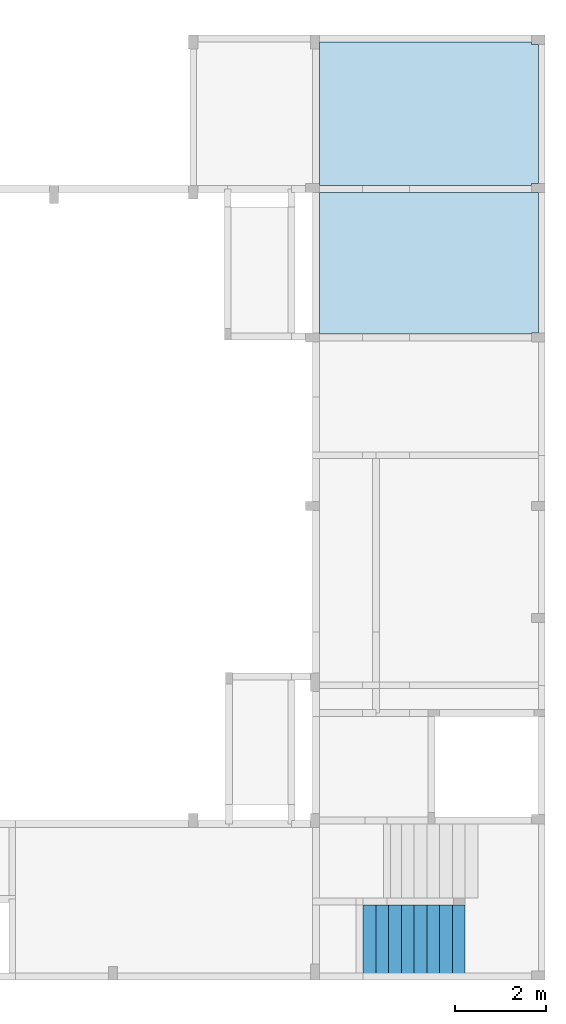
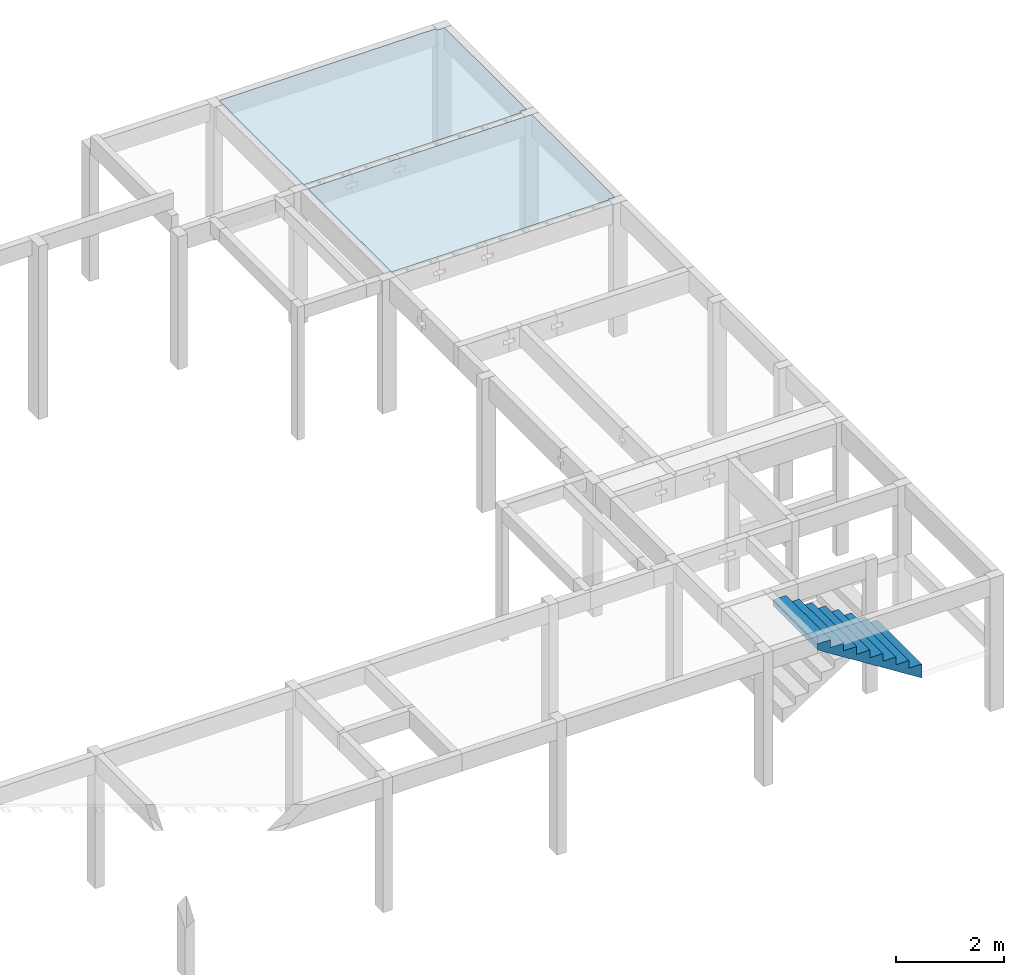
# One storey, part 20 of 21: 2 slabs, 1 stair flight.
"""IFC4 building model written with IfcOpenShell, lengths in centimetres."""

from ifc_helpers import new_model, si_unit, derived_unit, frame, origin_with_axes, place, context, project, spatial, polyline, outline, extrude, faceted_brep, material, element, save


model = new_model("IFC4")

# Units and contexts
model_context = context("Model", 3, precision=1e-05, world=origin_with_axes(), identifier="Body")
ifc_project = project(units=[si_unit("LENGTHUNIT", "METRE", prefix="CENTI"), si_unit("VOLUMEUNIT", "CUBIC_METRE"), si_unit("AREAUNIT", "SQUARE_METRE"), si_unit("POWERUNIT", "WATT"), si_unit("LUMINOUSFLUXUNIT", "LUMEN"), si_unit("ELECTRICCURRENTUNIT", "AMPERE"), si_unit("PRESSUREUNIT", "PASCAL", prefix="KILO"), si_unit("MASSUNIT", "GRAM", prefix="KILO"), si_unit("PLANEANGLEUNIT", "RADIAN"), derived_unit("VOLUMETRICFLOWRATEUNIT", [(si_unit("LENGTHUNIT", "METRE"), 3), (si_unit("TIMEUNIT", "SECOND"), -1)])], contexts=[model_context])

# Site, building, storey
site_placement = place(None, origin_with_axes())
site = spatial("IfcSite", under=ifc_project, at=site_placement)
building_placement = place(site_placement, frame((0.0, 0.0, -295.0)))
building = spatial("IfcBuilding", under=site, at=building_placement)
placement_1 = place(building_placement, origin_with_axes())
placement_2 = place(placement_1, frame((0.0, 0.0, 101.0), z_axis=(0.0, 0.0, 1.0), x_axis=(1.0, 0.0, 0.0)))
placement_3 = place(placement_2, frame((0.0, 0.0, 204.0), z_axis=(0.0, 0.0, 1.0), x_axis=(1.0, 0.0, 0.0)))
placement_4 = place(placement_3, frame((0.0, 0.0, 292.0), z_axis=(0.0, 0.0, 1.0), x_axis=(1.0, 0.0, 0.0)))
storey_placement = place(placement_4, frame((0.0, 0.0, 302.0), z_axis=(0.0, 0.0, 1.0), x_axis=(1.0, 0.0, 0.0)))
storey = spatial("IfcBuildingStorey", under=building, at=storey_placement, Name="PAVTO 02", CompositionType="ELEMENT", Elevation=604.0)

# Slabs
ifc_material = material(Name="Concreto")
slab_1_placement = place(storey_placement, frame((3761.23, -5277.085, 0.0), z_axis=(0.0, 0.0, 1.0), x_axis=(1.0, 0.0, 0.0)))
element("IfcSlab", 1, at=slab_1_placement, inside=storey, material=ifc_material, Name="L208", PredefinedType="FLOOR", context=model_context, shape_type="SolidModel", body=[
    extrude(outline(polyline([(-240.519, -157.535), (225.51, -157.534), (225.509, -152.604), (240.519, -152.604), (240.519, 152.534), (225.53, 152.534), (225.529, 157.534), (-240.499, 157.535), (-240.519, -157.535), (-240.519, -157.535)])), frame((0.0, 0.0, -4.0), z_axis=(0.0, 0.0, 1.0), x_axis=(1.0, 0.0, 0.0)), (0.0, 0.0, 1.0), 4.0),
    faceted_brep([(-5.0, -157.5345, -12.0), (-5.0, 157.5345, -12.0), (5.0, 157.5345, -12.0), (5.0, -157.5345, -12.0), (5.0, -157.5345, -4.0), (5.0, 157.5345, -4.0), (-5.0, 157.5345, -4.0), (-5.0, -157.5345, -4.0)], [[[0, 1, 2, 3]], [[4, 5, 6, 7]], [[4, 3, 5]], [[3, 2, 5]], [[5, 2, 6]], [[2, 1, 6]], [[6, 1, 7]], [[1, 0, 7]], [[7, 0, 4]], [[0, 3, 4]]]),
    faceted_brep([(-6.5, -157.5345, -12.0), (-6.5, 157.5345, -12.0), (-5.0, 157.5345, -12.0), (-5.0, -157.5345, -12.0), (-5.0, -157.5345, -9.0), (-5.0, 157.5345, -9.0), (-6.5, 157.5345, -9.0), (-6.5, -157.5345, -9.0)], [[[0, 1, 2, 3]], [[4, 5, 6, 7]], [[4, 3, 5]], [[3, 2, 5]], [[5, 2, 6]], [[2, 1, 6]], [[6, 1, 7]], [[1, 0, 7]], [[7, 0, 4]], [[0, 3, 4]]]),
    faceted_brep([(5.0, -157.5345, -12.0), (5.0, 157.5345, -12.0), (6.5, 157.5345, -12.0), (6.5, -157.5345, -12.0), (6.5, -157.5345, -9.0), (6.5, 157.5345, -9.0), (5.0, 157.5345, -9.0), (5.0, -157.5345, -9.0)], [[[0, 1, 2, 3]], [[4, 5, 6, 7]], [[4, 3, 5]], [[3, 2, 5]], [[5, 2, 6]], [[2, 1, 6]], [[6, 1, 7]], [[1, 0, 7]], [[7, 0, 4]], [[0, 3, 4]]]),
    faceted_brep([(-55.0, -157.5345, -12.0), (-55.0, 157.5345, -12.0), (-45.0, 157.5345, -12.0), (-45.0, -157.5345, -12.0), (-45.0, -157.5345, -4.0), (-45.0, 157.5345, -4.0), (-55.0, 157.5345, -4.0), (-55.0, -157.5345, -4.0)], [[[0, 1, 2, 3]], [[4, 5, 6, 7]], [[4, 3, 5]], [[3, 2, 5]], [[5, 2, 6]], [[2, 1, 6]], [[6, 1, 7]], [[1, 0, 7]], [[7, 0, 4]], [[0, 3, 4]]]),
    faceted_brep([(-56.5, -157.5345, -12.0), (-56.5, 157.5345, -12.0), (-55.0, 157.5345, -12.0), (-55.0, -157.5345, -12.0), (-55.0, -157.5345, -9.0), (-55.0, 157.5345, -9.0), (-56.5, 157.5345, -9.0), (-56.5, -157.5345, -9.0)], [[[0, 1, 2, 3]], [[4, 5, 6, 7]], [[4, 3, 5]], [[3, 2, 5]], [[5, 2, 6]], [[2, 1, 6]], [[6, 1, 7]], [[1, 0, 7]], [[7, 0, 4]], [[0, 3, 4]]]),
    faceted_brep([(-45.0, -157.5345, -12.0), (-45.0, 157.5345, -12.0), (-43.5, 157.5345, -12.0), (-43.5, -157.5345, -12.0), (-43.5, -157.5345, -9.0), (-43.5, 157.5345, -9.0), (-45.0, 157.5345, -9.0), (-45.0, -157.5345, -9.0)], [[[0, 1, 2, 3]], [[4, 5, 6, 7]], [[4, 3, 5]], [[3, 2, 5]], [[5, 2, 6]], [[2, 1, 6]], [[6, 1, 7]], [[1, 0, 7]], [[7, 0, 4]], [[0, 3, 4]]]),
    faceted_brep([(-105.0, -157.5345, -12.0), (-105.0, 157.5345, -12.0), (-95.0, 157.5345, -12.0), (-95.0, -157.5345, -12.0), (-95.0, -157.5345, -4.0), (-95.0, 157.5345, -4.0), (-105.0, 157.5345, -4.0), (-105.0, -157.5345, -4.0)], [[[0, 1, 2, 3]], [[4, 5, 6, 7]], [[4, 3, 5]], [[3, 2, 5]], [[5, 2, 6]], [[2, 1, 6]], [[6, 1, 7]], [[1, 0, 7]], [[7, 0, 4]], [[0, 3, 4]]]),
    faceted_brep([(-106.5, -157.5345, -12.0), (-106.5, 157.5345, -12.0), (-105.0, 157.5345, -12.0), (-105.0, -157.5345, -12.0), (-105.0, -157.5345, -9.0), (-105.0, 157.5345, -9.0), (-106.5, 157.5345, -9.0), (-106.5, -157.5345, -9.0)], [[[0, 1, 2, 3]], [[4, 5, 6, 7]], [[4, 3, 5]], [[3, 2, 5]], [[5, 2, 6]], [[2, 1, 6]], [[6, 1, 7]], [[1, 0, 7]], [[7, 0, 4]], [[0, 3, 4]]]),
    faceted_brep([(-95.0, -157.5345, -12.0), (-95.0, 157.5345, -12.0), (-93.5, 157.5345, -12.0), (-93.5, -157.5345, -12.0), (-93.5, -157.5345, -9.0), (-93.5, 157.5345, -9.0), (-95.0, 157.5345, -9.0), (-95.0, -157.5345, -9.0)], [[[0, 1, 2, 3]], [[4, 5, 6, 7]], [[4, 3, 5]], [[3, 2, 5]], [[5, 2, 6]], [[2, 1, 6]], [[6, 1, 7]], [[1, 0, 7]], [[7, 0, 4]], [[0, 3, 4]]]),
    faceted_brep([(-155.0, -157.5345, -12.0), (-155.0, 157.5345, -12.0), (-145.0, 157.5345, -12.0), (-145.0, -157.5345, -12.0), (-145.0, -157.5345, -4.0), (-145.0, 157.5345, -4.0), (-155.0, 157.5345, -4.0), (-155.0, -157.5345, -4.0)], [[[0, 1, 2, 3]], [[4, 5, 6, 7]], [[4, 3, 5]], [[3, 2, 5]], [[5, 2, 6]], [[2, 1, 6]], [[6, 1, 7]], [[1, 0, 7]], [[7, 0, 4]], [[0, 3, 4]]]),
    faceted_brep([(-156.5, -157.5345, -12.0), (-156.5, 157.5345, -12.0), (-155.0, 157.5345, -12.0), (-155.0, -157.5345, -12.0), (-155.0, -157.5345, -9.0), (-155.0, 157.5345, -9.0), (-156.5, 157.5345, -9.0), (-156.5, -157.5345, -9.0)], [[[0, 1, 2, 3]], [[4, 5, 6, 7]], [[4, 3, 5]], [[3, 2, 5]], [[5, 2, 6]], [[2, 1, 6]], [[6, 1, 7]], [[1, 0, 7]], [[7, 0, 4]], [[0, 3, 4]]]),
    faceted_brep([(-145.0, -157.5345, -12.0), (-145.0, 157.5345, -12.0), (-143.5, 157.5345, -12.0), (-143.5, -157.5345, -12.0), (-143.5, -157.5345, -9.0), (-143.5, 157.5345, -9.0), (-145.0, 157.5345, -9.0), (-145.0, -157.5345, -9.0)], [[[0, 1, 2, 3]], [[4, 5, 6, 7]], [[4, 3, 5]], [[3, 2, 5]], [[5, 2, 6]], [[2, 1, 6]], [[6, 1, 7]], [[1, 0, 7]], [[7, 0, 4]], [[0, 3, 4]]]),
    faceted_brep([(-205.0, -157.5345, -12.0), (-205.0, 157.5345, -12.0), (-195.0, 157.5345, -12.0), (-195.0, -157.5345, -12.0), (-195.0, -157.5345, -4.0), (-195.0, 157.5345, -4.0), (-205.0, 157.5345, -4.0), (-205.0, -157.5345, -4.0)], [[[0, 1, 2, 3]], [[4, 5, 6, 7]], [[4, 3, 5]], [[3, 2, 5]], [[5, 2, 6]], [[2, 1, 6]], [[6, 1, 7]], [[1, 0, 7]], [[7, 0, 4]], [[0, 3, 4]]]),
    faceted_brep([(-206.5, -157.5345, -12.0), (-206.5, 157.5345, -12.0), (-205.0, 157.5345, -12.0), (-205.0, -157.5345, -12.0), (-205.0, -157.5345, -9.0), (-205.0, 157.5345, -9.0), (-206.5, 157.5345, -9.0), (-206.5, -157.5345, -9.0)], [[[0, 1, 2, 3]], [[4, 5, 6, 7]], [[4, 3, 5]], [[3, 2, 5]], [[5, 2, 6]], [[2, 1, 6]], [[6, 1, 7]], [[1, 0, 7]], [[7, 0, 4]], [[0, 3, 4]]]),
    faceted_brep([(-195.0, -157.5345, -12.0), (-195.0, 157.5345, -12.0), (-193.5, 157.5345, -12.0), (-193.5, -157.5345, -12.0), (-193.5, -157.5345, -9.0), (-193.5, 157.5345, -9.0), (-195.0, 157.5345, -9.0), (-195.0, -157.5345, -9.0)], [[[0, 1, 2, 3]], [[4, 5, 6, 7]], [[4, 3, 5]], [[3, 2, 5]], [[5, 2, 6]], [[2, 1, 6]], [[6, 1, 7]], [[1, 0, 7]], [[7, 0, 4]], [[0, 3, 4]]]),
    faceted_brep([(45.0, -157.5345, -12.0), (45.0, 157.5345, -12.0), (55.0, 157.5345, -12.0), (55.0, -157.5345, -12.0), (55.0, -157.5345, -4.0), (55.0, 157.5345, -4.0), (45.0, 157.5345, -4.0), (45.0, -157.5345, -4.0)], [[[0, 1, 2, 3]], [[4, 5, 6, 7]], [[4, 3, 5]], [[3, 2, 5]], [[5, 2, 6]], [[2, 1, 6]], [[6, 1, 7]], [[1, 0, 7]], [[7, 0, 4]], [[0, 3, 4]]]),
    faceted_brep([(43.5, -157.5345, -12.0), (43.5, 157.5345, -12.0), (45.0, 157.5345, -12.0), (45.0, -157.5345, -12.0), (45.0, -157.5345, -9.0), (45.0, 157.5345, -9.0), (43.5, 157.5345, -9.0), (43.5, -157.5345, -9.0)], [[[0, 1, 2, 3]], [[4, 5, 6, 7]], [[4, 3, 5]], [[3, 2, 5]], [[5, 2, 6]], [[2, 1, 6]], [[6, 1, 7]], [[1, 0, 7]], [[7, 0, 4]], [[0, 3, 4]]]),
    faceted_brep([(55.0, -157.5345, -12.0), (55.0, 157.5345, -12.0), (56.5, 157.5345, -12.0), (56.5, -157.5345, -12.0), (56.5, -157.5345, -9.0), (56.5, 157.5345, -9.0), (55.0, 157.5345, -9.0), (55.0, -157.5345, -9.0)], [[[0, 1, 2, 3]], [[4, 5, 6, 7]], [[4, 3, 5]], [[3, 2, 5]], [[5, 2, 6]], [[2, 1, 6]], [[6, 1, 7]], [[1, 0, 7]], [[7, 0, 4]], [[0, 3, 4]]]),
    faceted_brep([(95.0, -157.5345, -12.0), (95.0, 157.5345, -12.0), (105.0, 157.5345, -12.0), (105.0, -157.5345, -12.0), (105.0, -157.5345, -4.0), (105.0, 157.5345, -4.0), (95.0, 157.5345, -4.0), (95.0, -157.5345, -4.0)], [[[0, 1, 2, 3]], [[4, 5, 6, 7]], [[4, 3, 5]], [[3, 2, 5]], [[5, 2, 6]], [[2, 1, 6]], [[6, 1, 7]], [[1, 0, 7]], [[7, 0, 4]], [[0, 3, 4]]]),
    faceted_brep([(93.5, -157.5345, -12.0), (93.5, 157.5345, -12.0), (95.0, 157.5345, -12.0), (95.0, -157.5345, -12.0), (95.0, -157.5345, -9.0), (95.0, 157.5345, -9.0), (93.5, 157.5345, -9.0), (93.5, -157.5345, -9.0)], [[[0, 1, 2, 3]], [[4, 5, 6, 7]], [[4, 3, 5]], [[3, 2, 5]], [[5, 2, 6]], [[2, 1, 6]], [[6, 1, 7]], [[1, 0, 7]], [[7, 0, 4]], [[0, 3, 4]]]),
    faceted_brep([(105.0, -157.5345, -12.0), (105.0, 157.5345, -12.0), (106.5, 157.5345, -12.0), (106.5, -157.5345, -12.0), (106.5, -157.5345, -9.0), (106.5, 157.5345, -9.0), (105.0, 157.5345, -9.0), (105.0, -157.5345, -9.0)], [[[0, 1, 2, 3]], [[4, 5, 6, 7]], [[4, 3, 5]], [[3, 2, 5]], [[5, 2, 6]], [[2, 1, 6]], [[6, 1, 7]], [[1, 0, 7]], [[7, 0, 4]], [[0, 3, 4]]]),
    faceted_brep([(145.0, -157.5345, -12.0), (145.0, 157.5345, -12.0), (155.0, 157.5345, -12.0), (155.0, -157.5345, -12.0), (155.0, -157.5345, -4.0), (155.0, 157.5345, -4.0), (145.0, 157.5345, -4.0), (145.0, -157.5345, -4.0)], [[[0, 1, 2, 3]], [[4, 5, 6, 7]], [[4, 3, 5]], [[3, 2, 5]], [[5, 2, 6]], [[2, 1, 6]], [[6, 1, 7]], [[1, 0, 7]], [[7, 0, 4]], [[0, 3, 4]]]),
    faceted_brep([(143.5, -157.5345, -12.0), (143.5, 157.5345, -12.0), (145.0, 157.5345, -12.0), (145.0, -157.5345, -12.0), (145.0, -157.5345, -9.0), (145.0, 157.5345, -9.0), (143.5, 157.5345, -9.0), (143.5, -157.5345, -9.0)], [[[0, 1, 2, 3]], [[4, 5, 6, 7]], [[4, 3, 5]], [[3, 2, 5]], [[5, 2, 6]], [[2, 1, 6]], [[6, 1, 7]], [[1, 0, 7]], [[7, 0, 4]], [[0, 3, 4]]]),
    faceted_brep([(155.0, -157.5345, -12.0), (155.0, 157.5345, -12.0), (156.5, 157.5345, -12.0), (156.5, -157.5345, -12.0), (156.5, -157.5345, -9.0), (156.5, 157.5345, -9.0), (155.0, 157.5345, -9.0), (155.0, -157.5345, -9.0)], [[[0, 1, 2, 3]], [[4, 5, 6, 7]], [[4, 3, 5]], [[3, 2, 5]], [[5, 2, 6]], [[2, 1, 6]], [[6, 1, 7]], [[1, 0, 7]], [[7, 0, 4]], [[0, 3, 4]]]),
    faceted_brep([(195.0, -157.5345, -12.0), (195.0, 157.5345, -12.0), (205.0, 157.5345, -12.0), (205.0, -157.5345, -12.0), (205.0, -157.5345, -4.0), (205.0, 157.5345, -4.0), (195.0, 157.5345, -4.0), (195.0, -157.5345, -4.0)], [[[0, 1, 2, 3]], [[4, 5, 6, 7]], [[4, 3, 5]], [[3, 2, 5]], [[5, 2, 6]], [[2, 1, 6]], [[6, 1, 7]], [[1, 0, 7]], [[7, 0, 4]], [[0, 3, 4]]]),
    faceted_brep([(193.5, -157.5345, -12.0), (193.5, 157.5345, -12.0), (195.0, 157.5345, -12.0), (195.0, -157.5345, -12.0), (195.0, -157.5345, -9.0), (195.0, 157.5345, -9.0), (193.5, 157.5345, -9.0), (193.5, -157.5345, -9.0)], [[[0, 1, 2, 3]], [[4, 5, 6, 7]], [[4, 3, 5]], [[3, 2, 5]], [[5, 2, 6]], [[2, 1, 6]], [[6, 1, 7]], [[1, 0, 7]], [[7, 0, 4]], [[0, 3, 4]]]),
    faceted_brep([(205.0, -157.5345, -12.0), (205.0, 157.5345, -12.0), (206.5, 157.5345, -12.0), (206.5, -157.5345, -12.0), (206.5, -157.5345, -9.0), (206.5, 157.5345, -9.0), (205.0, 157.5345, -9.0), (205.0, -157.5345, -9.0)], [[[0, 1, 2, 3]], [[4, 5, 6, 7]], [[4, 3, 5]], [[3, 2, 5]], [[5, 2, 6]], [[2, 1, 6]], [[6, 1, 7]], [[1, 0, 7]], [[7, 0, 4]], [[0, 3, 4]]]),
])
slab_2_placement = place(storey_placement, frame((3761.2305, -5605.3345, 0.0), z_axis=(0.0, 0.0, 1.0), x_axis=(1.0, 0.0, 0.0)))
element("IfcSlab", 2, at=slab_2_placement, inside=storey, material=ifc_material, Name="L216", PredefinedType="FLOOR", context=model_context, shape_type="SolidModel", body=[
    extrude(outline(polyline([(225.53, -155.714), (225.53, -153.215), (240.52, -153.214), (240.52, 155.645), (225.509, 155.645), (-42.98, 155.715), (-145.829, 155.715), (-240.519, 155.645), (-240.5, -155.714), (225.53, -155.714), (225.53, -155.714)])), frame((-0.0005, -0.0005, -4.0), z_axis=(0.0, 0.0, 1.0), x_axis=(1.0, 0.0, 0.0)), (0.0, 0.0, 1.0), 4.0),
    faceted_brep([(-5.0005, -155.7145, -12.0), (-5.0005, 155.68898413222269, -12.0), (4.9995, 155.6871722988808, -12.0), (4.9995, -155.7145, -12.0), (4.9995, -155.7145, -4.0), (4.9995, 155.6871722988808, -4.0), (-5.0005, 155.68898413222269, -4.0), (-5.0005, -155.7145, -4.0)], [[[0, 1, 2, 3]], [[4, 5, 6, 7]], [[4, 3, 5]], [[3, 2, 5]], [[5, 2, 6]], [[2, 1, 6]], [[6, 1, 7]], [[1, 0, 7]], [[7, 0, 4]], [[0, 3, 4]]]),
    faceted_brep([(-6.5005, -155.7145, -12.0), (-6.5005, 155.68925590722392, -12.0), (-5.0005, 155.68898413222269, -12.0), (-5.0005, -155.7145, -12.0), (-5.0005, -155.7145, -9.0), (-5.0005, 155.68898413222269, -9.0), (-6.5005, 155.68925590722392, -9.0), (-6.5005, -155.7145, -9.0)], [[[0, 1, 2, 3]], [[4, 5, 6, 7]], [[4, 3, 5]], [[3, 2, 5]], [[5, 2, 6]], [[2, 1, 6]], [[6, 1, 7]], [[1, 0, 7]], [[7, 0, 4]], [[0, 3, 4]]]),
    faceted_brep([(4.9995, -155.7145, -12.0), (4.9995, 155.6871722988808, -12.0), (6.4995, 155.68690052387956, -12.0), (6.4995, -155.7145, -12.0), (6.4995, -155.7145, -9.0), (6.4995, 155.68690052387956, -9.0), (4.9995, 155.6871722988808, -9.0), (4.9995, -155.7145, -9.0)], [[[0, 1, 2, 3]], [[4, 5, 6, 7]], [[4, 3, 5]], [[3, 2, 5]], [[5, 2, 6]], [[2, 1, 6]], [[6, 1, 7]], [[1, 0, 7]], [[7, 0, 4]], [[0, 3, 4]]]),
    faceted_brep([(-55.0005, -155.7145, -12.0), (-55.0005, 155.69804329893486, -12.0), (-45.0005, 155.69623146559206, -12.0), (-45.0005, -155.7145, -12.0), (-45.0005, -155.7145, -4.0), (-45.0005, 155.69623146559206, -4.0), (-55.0005, 155.69804329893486, -4.0), (-55.0005, -155.7145, -4.0)], [[[0, 1, 2, 3]], [[4, 5, 6, 7]], [[4, 3, 5]], [[3, 2, 5]], [[5, 2, 6]], [[2, 1, 6]], [[6, 1, 7]], [[1, 0, 7]], [[7, 0, 4]], [[0, 3, 4]]]),
    faceted_brep([(-56.5005, -155.7145, -12.0), (-56.5005, 155.6983150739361, -12.0), (-55.0005, 155.69804329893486, -12.0), (-55.0005, -155.7145, -12.0), (-55.0005, -155.7145, -9.0), (-55.0005, 155.69804329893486, -9.0), (-56.5005, 155.6983150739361, -9.0), (-56.5005, -155.7145, -9.0)], [[[0, 1, 2, 3]], [[4, 5, 6, 7]], [[4, 3, 5]], [[3, 2, 5]], [[5, 2, 6]], [[2, 1, 6]], [[6, 1, 7]], [[1, 0, 7]], [[7, 0, 4]], [[0, 3, 4]]]),
    faceted_brep([(-45.0005, -155.7145, -12.0), (-45.0005, 155.69623146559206, -12.0), (-43.5005, 155.69595969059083, -12.0), (-43.5005, -155.7145, -12.0), (-43.5005, -155.7145, -9.0), (-43.5005, 155.69595969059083, -9.0), (-45.0005, 155.69623146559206, -9.0), (-45.0005, -155.7145, -9.0)], [[[0, 1, 2, 3]], [[4, 5, 6, 7]], [[4, 3, 5]], [[3, 2, 5]], [[5, 2, 6]], [[2, 1, 6]], [[6, 1, 7]], [[1, 0, 7]], [[7, 0, 4]], [[0, 3, 4]]]),
    faceted_brep([(-105.0005, -155.7145, -12.0), (-105.0005, 155.70710246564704, -12.0), (-95.0005, 155.70529063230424, -12.0), (-95.0005, -155.7145, -12.0), (-95.0005, -155.7145, -4.0), (-95.0005, 155.70529063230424, -4.0), (-105.0005, 155.70710246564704, -4.0), (-105.0005, -155.7145, -4.0)], [[[0, 1, 2, 3]], [[4, 5, 6, 7]], [[4, 3, 5]], [[3, 2, 5]], [[5, 2, 6]], [[2, 1, 6]], [[6, 1, 7]], [[1, 0, 7]], [[7, 0, 4]], [[0, 3, 4]]]),
    faceted_brep([(-106.5005, -155.7145, -12.0), (-106.5005, 155.70737424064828, -12.0), (-105.0005, 155.70710246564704, -12.0), (-105.0005, -155.7145, -12.0), (-105.0005, -155.7145, -9.0), (-105.0005, 155.70710246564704, -9.0), (-106.5005, 155.70737424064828, -9.0), (-106.5005, -155.7145, -9.0)], [[[0, 1, 2, 3]], [[4, 5, 6, 7]], [[4, 3, 5]], [[3, 2, 5]], [[5, 2, 6]], [[2, 1, 6]], [[6, 1, 7]], [[1, 0, 7]], [[7, 0, 4]], [[0, 3, 4]]]),
    faceted_brep([(-95.0005, -155.7145, -12.0), (-95.0005, 155.70529063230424, -12.0), (-93.5005, 155.705018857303, -12.0), (-93.5005, -155.7145, -12.0), (-93.5005, -155.7145, -9.0), (-93.5005, 155.705018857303, -9.0), (-95.0005, 155.70529063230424, -9.0), (-95.0005, -155.7145, -9.0)], [[[0, 1, 2, 3]], [[4, 5, 6, 7]], [[4, 3, 5]], [[3, 2, 5]], [[5, 2, 6]], [[2, 1, 6]], [[6, 1, 7]], [[1, 0, 7]], [[7, 0, 4]], [[0, 3, 4]]]),
    faceted_brep([(-155.0005, -155.7145, -12.0), (-155.0005, 155.70772029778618, -12.0), (-145.0005, 155.71434979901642, -12.0), (-145.0005, -155.7145, -12.0), (-145.0005, -155.7145, -4.0), (-145.0005, 155.71434979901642, -4.0), (-155.0005, 155.70772029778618, -4.0), (-155.0005, -155.7145, -4.0)], [[[0, 1, 2, 3]], [[4, 5, 6, 7]], [[4, 3, 5]], [[3, 2, 5]], [[5, 2, 6]], [[2, 1, 6]], [[6, 1, 7]], [[1, 0, 7]], [[7, 0, 4]], [[0, 3, 4]]]),
    faceted_brep([(-156.5005, -155.7145, -12.0), (-156.5005, 155.70661141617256, -12.0), (-155.0005, 155.70772029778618, -12.0), (-155.0005, -155.7145, -12.0), (-155.0005, -155.7145, -9.0), (-155.0005, 155.70772029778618, -9.0), (-156.5005, 155.70661141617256, -9.0), (-156.5005, -155.7145, -9.0)], [[[0, 1, 2, 3]], [[4, 5, 6, 7]], [[4, 3, 5]], [[3, 2, 5]], [[5, 2, 6]], [[2, 1, 6]], [[6, 1, 7]], [[1, 0, 7]], [[7, 0, 4]], [[0, 3, 4]]]),
    faceted_brep([(-145.0005, -155.7145, -12.0), (-145.0005, 155.71434979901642, -12.0), (-143.5005, 155.71407802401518, -12.0), (-143.5005, -155.7145, -12.0), (-143.5005, -155.7145, -9.0), (-143.5005, 155.71407802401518, -9.0), (-145.0005, 155.71434979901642, -9.0), (-145.0005, -155.7145, -9.0)], [[[0, 1, 2, 3]], [[4, 5, 6, 7]], [[4, 3, 5]], [[3, 2, 5]], [[5, 2, 6]], [[2, 1, 6]], [[6, 1, 7]], [[1, 0, 7]], [[7, 0, 4]], [[0, 3, 4]]]),
    faceted_brep([(-205.0005, -155.7145, -12.0), (-205.0005, 155.67075757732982, -12.0), (-195.0005, 155.6781501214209, -12.0), (-195.0005, -155.7145, -12.0), (-195.0005, -155.7145, -4.0), (-195.0005, 155.6781501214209, -4.0), (-205.0005, 155.67075757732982, -4.0), (-205.0005, -155.7145, -4.0)], [[[0, 1, 2, 3]], [[4, 5, 6, 7]], [[4, 3, 5]], [[3, 2, 5]], [[5, 2, 6]], [[2, 1, 6]], [[6, 1, 7]], [[1, 0, 7]], [[7, 0, 4]], [[0, 3, 4]]]),
    faceted_brep([(-206.5005, -155.7145, -12.0), (-206.5005, 155.6696486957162, -12.0), (-205.0005, 155.67075757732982, -12.0), (-205.0005, -155.7145, -12.0), (-205.0005, -155.7145, -9.0), (-205.0005, 155.67075757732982, -9.0), (-206.5005, 155.6696486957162, -9.0), (-206.5005, -155.7145, -9.0)], [[[0, 1, 2, 3]], [[4, 5, 6, 7]], [[4, 3, 5]], [[3, 2, 5]], [[5, 2, 6]], [[2, 1, 6]], [[6, 1, 7]], [[1, 0, 7]], [[7, 0, 4]], [[0, 3, 4]]]),
    faceted_brep([(-195.0005, -155.7145, -12.0), (-195.0005, 155.6781501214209, -12.0), (-193.5005, 155.67925900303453, -12.0), (-193.5005, -155.7145, -12.0), (-193.5005, -155.7145, -9.0), (-193.5005, 155.67925900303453, -9.0), (-195.0005, 155.6781501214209, -9.0), (-195.0005, -155.7145, -9.0)], [[[0, 1, 2, 3]], [[4, 5, 6, 7]], [[4, 3, 5]], [[3, 2, 5]], [[5, 2, 6]], [[2, 1, 6]], [[6, 1, 7]], [[1, 0, 7]], [[7, 0, 4]], [[0, 3, 4]]]),
    faceted_brep([(44.9995, -155.7145, -12.0), (44.9995, 155.67992496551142, -12.0), (54.9995, 155.67811313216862, -12.0), (54.9995, -155.7145, -12.0), (54.9995, -155.7145, -4.0), (54.9995, 155.67811313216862, -4.0), (44.9995, 155.67992496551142, -4.0), (44.9995, -155.7145, -4.0)], [[[0, 1, 2, 3]], [[4, 5, 6, 7]], [[4, 3, 5]], [[3, 2, 5]], [[5, 2, 6]], [[2, 1, 6]], [[6, 1, 7]], [[1, 0, 7]], [[7, 0, 4]], [[0, 3, 4]]]),
    faceted_brep([(43.4995, -155.7145, -12.0), (43.4995, 155.68019674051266, -12.0), (44.9995, 155.67992496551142, -12.0), (44.9995, -155.7145, -12.0), (44.9995, -155.7145, -9.0), (44.9995, 155.67992496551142, -9.0), (43.4995, 155.68019674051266, -9.0), (43.4995, -155.7145, -9.0)], [[[0, 1, 2, 3]], [[4, 5, 6, 7]], [[4, 3, 5]], [[3, 2, 5]], [[5, 2, 6]], [[2, 1, 6]], [[6, 1, 7]], [[1, 0, 7]], [[7, 0, 4]], [[0, 3, 4]]]),
    faceted_brep([(54.9995, -155.7145, -12.0), (54.9995, 155.67811313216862, -12.0), (56.4995, 155.67784135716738, -12.0), (56.4995, -155.7145, -12.0), (56.4995, -155.7145, -9.0), (56.4995, 155.67784135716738, -9.0), (54.9995, 155.67811313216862, -9.0), (54.9995, -155.7145, -9.0)], [[[0, 1, 2, 3]], [[4, 5, 6, 7]], [[4, 3, 5]], [[3, 2, 5]], [[5, 2, 6]], [[2, 1, 6]], [[6, 1, 7]], [[1, 0, 7]], [[7, 0, 4]], [[0, 3, 4]]]),
    faceted_brep([(94.9995, -155.7145, -12.0), (94.9995, 155.67086579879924, -12.0), (104.9995, 155.66905396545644, -12.0), (104.9995, -155.7145, -12.0), (104.9995, -155.7145, -4.0), (104.9995, 155.66905396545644, -4.0), (94.9995, 155.67086579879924, -4.0), (94.9995, -155.7145, -4.0)], [[[0, 1, 2, 3]], [[4, 5, 6, 7]], [[4, 3, 5]], [[3, 2, 5]], [[5, 2, 6]], [[2, 1, 6]], [[6, 1, 7]], [[1, 0, 7]], [[7, 0, 4]], [[0, 3, 4]]]),
    faceted_brep([(93.4995, -155.7145, -12.0), (93.4995, 155.67113757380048, -12.0), (94.9995, 155.67086579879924, -12.0), (94.9995, -155.7145, -12.0), (94.9995, -155.7145, -9.0), (94.9995, 155.67086579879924, -9.0), (93.4995, 155.67113757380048, -9.0), (93.4995, -155.7145, -9.0)], [[[0, 1, 2, 3]], [[4, 5, 6, 7]], [[4, 3, 5]], [[3, 2, 5]], [[5, 2, 6]], [[2, 1, 6]], [[6, 1, 7]], [[1, 0, 7]], [[7, 0, 4]], [[0, 3, 4]]]),
    faceted_brep([(104.9995, -155.7145, -12.0), (104.9995, 155.66905396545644, -12.0), (106.4995, 155.6687821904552, -12.0), (106.4995, -155.7145, -12.0), (106.4995, -155.7145, -9.0), (106.4995, 155.6687821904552, -9.0), (104.9995, 155.66905396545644, -9.0), (104.9995, -155.7145, -9.0)], [[[0, 1, 2, 3]], [[4, 5, 6, 7]], [[4, 3, 5]], [[3, 2, 5]], [[5, 2, 6]], [[2, 1, 6]], [[6, 1, 7]], [[1, 0, 7]], [[7, 0, 4]], [[0, 3, 4]]]),
    faceted_brep([(144.9995, -155.7145, -12.0), (144.9995, 155.66180663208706, -12.0), (154.9995, 155.65999479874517, -12.0), (154.9995, -155.7145, -12.0), (154.9995, -155.7145, -4.0), (154.9995, 155.65999479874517, -4.0), (144.9995, 155.66180663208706, -4.0), (144.9995, -155.7145, -4.0)], [[[0, 1, 2, 3]], [[4, 5, 6, 7]], [[4, 3, 5]], [[3, 2, 5]], [[5, 2, 6]], [[2, 1, 6]], [[6, 1, 7]], [[1, 0, 7]], [[7, 0, 4]], [[0, 3, 4]]]),
    faceted_brep([(143.4995, -155.7145, -12.0), (143.4995, 155.6620784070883, -12.0), (144.9995, 155.66180663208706, -12.0), (144.9995, -155.7145, -12.0), (144.9995, -155.7145, -9.0), (144.9995, 155.66180663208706, -9.0), (143.4995, 155.6620784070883, -9.0), (143.4995, -155.7145, -9.0)], [[[0, 1, 2, 3]], [[4, 5, 6, 7]], [[4, 3, 5]], [[3, 2, 5]], [[5, 2, 6]], [[2, 1, 6]], [[6, 1, 7]], [[1, 0, 7]], [[7, 0, 4]], [[0, 3, 4]]]),
    faceted_brep([(154.9995, -155.7145, -12.0), (154.9995, 155.65999479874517, -12.0), (156.4995, 155.65972302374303, -12.0), (156.4995, -155.7145, -12.0), (156.4995, -155.7145, -9.0), (156.4995, 155.65972302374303, -9.0), (154.9995, 155.65999479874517, -9.0), (154.9995, -155.7145, -9.0)], [[[0, 1, 2, 3]], [[4, 5, 6, 7]], [[4, 3, 5]], [[3, 2, 5]], [[5, 2, 6]], [[2, 1, 6]], [[6, 1, 7]], [[1, 0, 7]], [[7, 0, 4]], [[0, 3, 4]]]),
    faceted_brep([(194.9995, -155.7145, -12.0), (194.9995, 155.6527474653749, -12.0), (204.9995, 155.650935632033, -12.0), (204.9995, -155.7145, -12.0), (204.9995, -155.7145, -4.0), (204.9995, 155.650935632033, -4.0), (194.9995, 155.6527474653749, -4.0), (194.9995, -155.7145, -4.0)], [[[0, 1, 2, 3]], [[4, 5, 6, 7]], [[4, 3, 5]], [[3, 2, 5]], [[5, 2, 6]], [[2, 1, 6]], [[6, 1, 7]], [[1, 0, 7]], [[7, 0, 4]], [[0, 3, 4]]]),
    faceted_brep([(193.4995, -155.7145, -12.0), (193.4995, 155.65301924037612, -12.0), (194.9995, 155.6527474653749, -12.0), (194.9995, -155.7145, -12.0), (194.9995, -155.7145, -9.0), (194.9995, 155.6527474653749, -9.0), (193.4995, 155.65301924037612, -9.0), (193.4995, -155.7145, -9.0)], [[[0, 1, 2, 3]], [[4, 5, 6, 7]], [[4, 3, 5]], [[3, 2, 5]], [[5, 2, 6]], [[2, 1, 6]], [[6, 1, 7]], [[1, 0, 7]], [[7, 0, 4]], [[0, 3, 4]]]),
    faceted_brep([(204.9995, -155.7145, -12.0), (204.9995, 155.650935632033, -12.0), (206.4995, 155.65066385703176, -12.0), (206.4995, -155.7145, -12.0), (206.4995, -155.7145, -9.0), (206.4995, 155.65066385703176, -9.0), (204.9995, 155.650935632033, -9.0), (204.9995, -155.7145, -9.0)], [[[0, 1, 2, 3]], [[4, 5, 6, 7]], [[4, 3, 5]], [[3, 2, 5]], [[5, 2, 6]], [[2, 1, 6]], [[6, 1, 7]], [[1, 0, 7]], [[7, 0, 4]], [[0, 3, 4]]]),
])

# Stair flight
stair_flight_placement = place(storey_placement, frame((3728.59, -7096.81, -17.75), z_axis=(0.0, 0.0, 1.0), x_axis=(1.0, 0.0, 0.0)))
element("IfcStairFlight", 3, at=stair_flight_placement, inside=storey, material=ifc_material, Name="LE2", NumberOfRisers=0, NumberOfTreads=0, context=model_context, shape_type="Brep", body=[
    faceted_brep([(-112.0, -82.5, 0.0), (-84.0, -82.5, 0.0), (-84.0, 82.5, 0.0), (-112.0, 82.5, 0.0), (-84.0, -82.5, -31.958047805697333), (-112.0, -82.5, -14.208047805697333), (-112.0, 82.5, -14.208047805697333), (-84.0, 82.5, -31.958047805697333), (-112.0, -82.5, -14.208047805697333), (-112.0, -82.5, 0.0), (-112.0, 82.5, 0.0), (-112.0, 82.5, -14.208047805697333), (-84.0, -82.5, 0.0), (-84.0, -82.5, -31.958047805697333), (-84.0, 82.5, -31.958047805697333), (-84.0, 82.5, 0.0), (-84.0, 82.5, -31.958047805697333), (-112.0, 82.5, -14.208047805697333), (-112.0, 82.5, 0.0), (-84.0, 82.5, 0.0), (-84.0, -82.5, -31.958047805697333), (-84.0, -82.5, 0.0), (-112.0, -82.5, 0.0), (-112.0, -82.5, -14.208047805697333), (-84.0, -82.5, -17.75), (-56.0, -82.5, -17.75), (-56.0, 82.5, -17.75), (-84.0, 82.5, -17.75), (-56.0, -82.5, -49.70804780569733), (-84.0, -82.5, -31.958047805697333), (-84.0, 82.5, -31.958047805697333), (-56.0, 82.5, -49.70804780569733), (-84.0, -82.5, -31.958047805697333), (-84.0, -82.5, -17.75), (-84.0, 82.5, -17.75), (-84.0, 82.5, -31.958047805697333), (-56.0, -82.5, -17.75), (-56.0, -82.5, -49.70804780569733), (-56.0, 82.5, -49.70804780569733), (-56.0, 82.5, -17.75), (-56.0, 82.5, -49.70804780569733), (-84.0, 82.5, -31.958047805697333), (-84.0, 82.5, -17.75), (-56.0, 82.5, -17.75), (-56.0, -82.5, -49.70804780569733), (-56.0, -82.5, -17.75), (-84.0, -82.5, -17.75), (-84.0, -82.5, -31.958047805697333), (-56.0, -82.5, -35.5), (-28.0, -82.5, -35.5), (-28.0, 82.5, -35.5), (-56.0, 82.5, -35.5), (-28.0, -82.5, -67.45804780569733), (-56.0, -82.5, -49.70804780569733), (-56.0, 82.5, -49.70804780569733), (-28.0, 82.5, -67.45804780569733), (-56.0, -82.5, -49.70804780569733), (-56.0, -82.5, -35.5), (-56.0, 82.5, -35.5), (-56.0, 82.5, -49.70804780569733), (-28.0, -82.5, -35.5), (-28.0, -82.5, -67.45804780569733), (-28.0, 82.5, -67.45804780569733), (-28.0, 82.5, -35.5), (-28.0, 82.5, -67.45804780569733), (-56.0, 82.5, -49.70804780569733), (-56.0, 82.5, -35.5), (-28.0, 82.5, -35.5), (-28.0, -82.5, -67.45804780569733), (-28.0, -82.5, -35.5), (-56.0, -82.5, -35.5), (-56.0, -82.5, -49.70804780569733), (-28.0, -82.5, -53.25), (0.0, -82.5, -53.25), (0.0, 82.5, -53.25), (-28.0, 82.5, -53.25), (0.0, -82.5, -85.20804780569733), (-28.0, -82.5, -67.45804780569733), (-28.0, 82.5, -67.45804780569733), (0.0, 82.5, -85.20804780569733), (-28.0, -82.5, -67.45804780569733), (-28.0, -82.5, -53.25), (-28.0, 82.5, -53.25), (-28.0, 82.5, -67.45804780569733), (0.0, -82.5, -53.25), (0.0, -82.5, -85.20804780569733), (0.0, 82.5, -85.20804780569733), (0.0, 82.5, -53.25), (0.0, 82.5, -85.20804780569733), (-28.0, 82.5, -67.45804780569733), (-28.0, 82.5, -53.25), (0.0, 82.5, -53.25), (0.0, -82.5, -85.20804780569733), (0.0, -82.5, -53.25), (-28.0, -82.5, -53.25), (-28.0, -82.5, -67.45804780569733), (0.0, -82.5, -71.0), (28.0, -82.5, -71.0), (28.0, 82.5, -71.0), (0.0, 82.5, -71.0), (28.0, -82.5, -102.95804780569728), (0.0, -82.5, -85.20804780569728), (0.0, 82.5, -85.20804780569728), (28.0, 82.5, -102.95804780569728), (0.0, -82.5, -85.20804780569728), (0.0, -82.5, -71.0), (0.0, 82.5, -71.0), (0.0, 82.5, -85.20804780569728), (28.0, -82.5, -71.0), (28.0, -82.5, -102.95804780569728), (28.0, 82.5, -102.95804780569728), (28.0, 82.5, -71.0), (28.0, 82.5, -102.95804780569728), (0.0, 82.5, -85.20804780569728), (0.0, 82.5, -71.0), (28.0, 82.5, -71.0), (28.0, -82.5, -102.95804780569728), (28.0, -82.5, -71.0), (0.0, -82.5, -71.0), (0.0, -82.5, -85.20804780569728), (28.0, -82.5, -88.75), (56.0, -82.5, -88.75), (56.0, 82.5, -88.75), (28.0, 82.5, -88.75), (56.0, -82.5, -120.70804780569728), (28.0, -82.5, -102.95804780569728), (28.0, 82.5, -102.95804780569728), (56.0, 82.5, -120.70804780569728), (28.0, -82.5, -102.95804780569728), (28.0, -82.5, -88.75), (28.0, 82.5, -88.75), (28.0, 82.5, -102.95804780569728), (56.0, -82.5, -88.75), (56.0, -82.5, -120.70804780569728), (56.0, 82.5, -120.70804780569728), (56.0, 82.5, -88.75), (56.0, 82.5, -120.70804780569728), (28.0, 82.5, -102.95804780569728), (28.0, 82.5, -88.75), (56.0, 82.5, -88.75), (56.0, -82.5, -120.70804780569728), (56.0, -82.5, -88.75), (28.0, -82.5, -88.75), (28.0, -82.5, -102.95804780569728), (56.0, -82.5, -106.5), (84.0, -82.5, -106.5), (84.0, 82.5, -106.5), (56.0, 82.5, -106.5), (84.0, -82.5, -138.45804780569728), (56.0, -82.5, -120.70804780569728), (56.0, 82.5, -120.70804780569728), (84.0, 82.5, -138.45804780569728), (56.0, -82.5, -120.70804780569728), (56.0, -82.5, -106.5), (56.0, 82.5, -106.5), (56.0, 82.5, -120.70804780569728), (84.0, -82.5, -106.5), (84.0, -82.5, -138.45804780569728), (84.0, 82.5, -138.45804780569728), (84.0, 82.5, -106.5), (84.0, 82.5, -138.45804780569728), (56.0, 82.5, -120.70804780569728), (56.0, 82.5, -106.5), (84.0, 82.5, -106.5), (84.0, -82.5, -138.45804780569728), (84.0, -82.5, -106.5), (56.0, -82.5, -106.5), (56.0, -82.5, -120.70804780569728), (84.0, -82.5, -124.25), (112.0, -82.5, -124.25), (112.0, 82.5, -124.25), (84.0, 82.5, -124.25), (112.0, -82.5, -156.20804780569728), (84.0, -82.5, -138.45804780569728), (84.0, 82.5, -138.45804780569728), (112.0, 82.5, -156.20804780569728), (84.0, -82.5, -138.45804780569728), (84.0, -82.5, -124.25), (84.0, 82.5, -124.25), (84.0, 82.5, -138.45804780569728), (112.0, -82.5, -124.25), (112.0, -82.5, -156.20804780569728), (112.0, 82.5, -156.20804780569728), (112.0, 82.5, -124.25), (112.0, 82.5, -156.20804780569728), (84.0, 82.5, -138.45804780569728), (84.0, 82.5, -124.25), (112.0, 82.5, -124.25), (112.0, -82.5, -156.20804780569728), (112.0, -82.5, -124.25), (84.0, -82.5, -124.25), (84.0, -82.5, -138.45804780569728)], [[[0, 1, 2, 3]], [[4, 5, 6, 7]], [[8, 9, 10, 11]], [[12, 13, 14, 15]], [[16, 17, 18, 19]], [[20, 21, 22, 23]], [[24, 25, 26, 27]], [[28, 29, 30, 31]], [[32, 33, 34, 35]], [[36, 37, 38, 39]], [[40, 41, 42, 43]], [[44, 45, 46, 47]], [[48, 49, 50, 51]], [[52, 53, 54, 55]], [[56, 57, 58, 59]], [[60, 61, 62, 63]], [[64, 65, 66, 67]], [[68, 69, 70, 71]], [[72, 73, 74, 75]], [[76, 77, 78, 79]], [[80, 81, 82, 83]], [[84, 85, 86, 87]], [[88, 89, 90, 91]], [[92, 93, 94, 95]], [[96, 97, 98, 99]], [[100, 101, 102, 103]], [[104, 105, 106, 107]], [[108, 109, 110, 111]], [[112, 113, 114, 115]], [[116, 117, 118, 119]], [[120, 121, 122, 123]], [[124, 125, 126, 127]], [[128, 129, 130, 131]], [[132, 133, 134, 135]], [[136, 137, 138, 139]], [[140, 141, 142, 143]], [[144, 145, 146, 147]], [[148, 149, 150, 151]], [[152, 153, 154, 155]], [[156, 157, 158, 159]], [[160, 161, 162, 163]], [[164, 165, 166, 167]], [[168, 169, 170, 171]], [[172, 173, 174, 175]], [[176, 177, 178, 179]], [[180, 181, 182, 183]], [[184, 185, 186, 187]], [[188, 189, 190, 191]]]),
])

save(model, "model.ifc")
